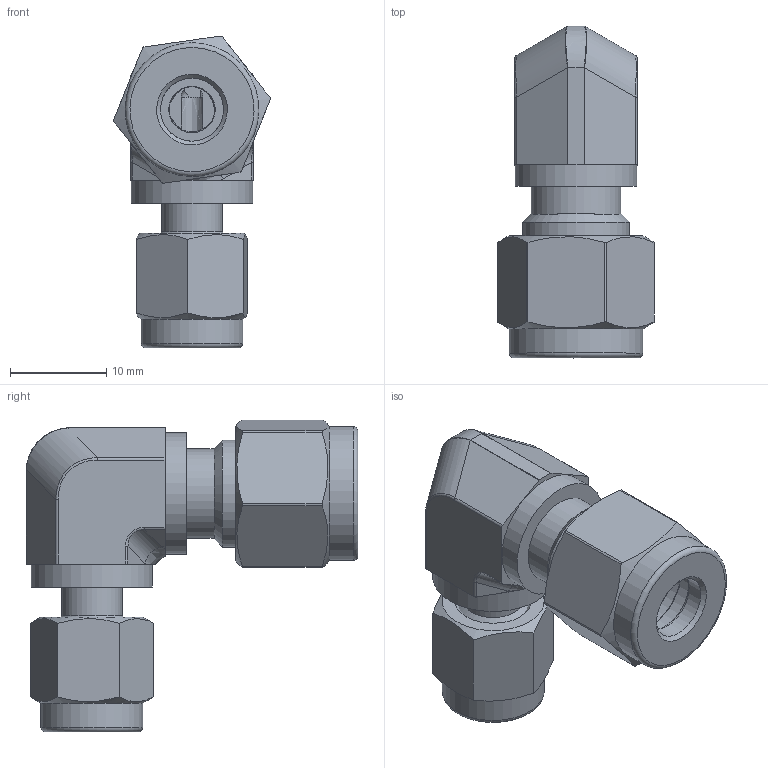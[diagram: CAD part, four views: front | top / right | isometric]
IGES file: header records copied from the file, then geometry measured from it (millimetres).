
Global section: file name: No Iges File Name specified; native system: Autodesk Inventor 2012; preprocessor: AutoDesk Inventor Iges Exporter R2012; author: 硅己绕,,1; organization: 1; date: 20150430.111242; units: millimetre
Bounding box: 16.26 x 34.47 x 32.41 mm (x, y, z)
Volume: 5133.4 mm3; surface area: 4153.6 mm2
Topology: 3 solids, 3 shells, 117 faces, 258 edges, 156 vertices
Faces by surface type: plane 39, cylinder 30, revolution 22, bspline 14, cone 8, torus 4
Full cylindrical faces by diameter (mm): 6.28 x2, 7.94 x1, 9.3 x1, 9.4 x1, 10.6 x1, 11.113 x1, 12.6 x2, 13.9 x1
